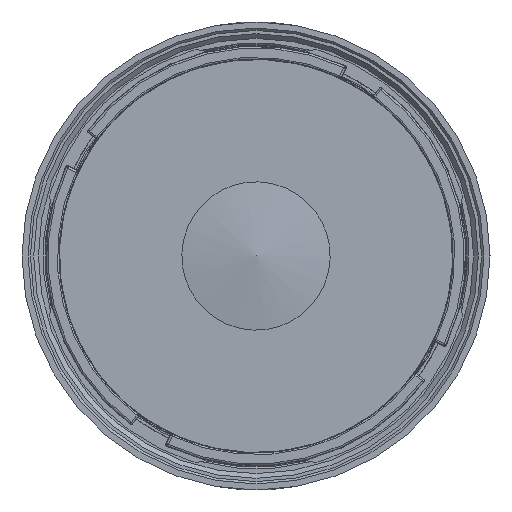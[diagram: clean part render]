
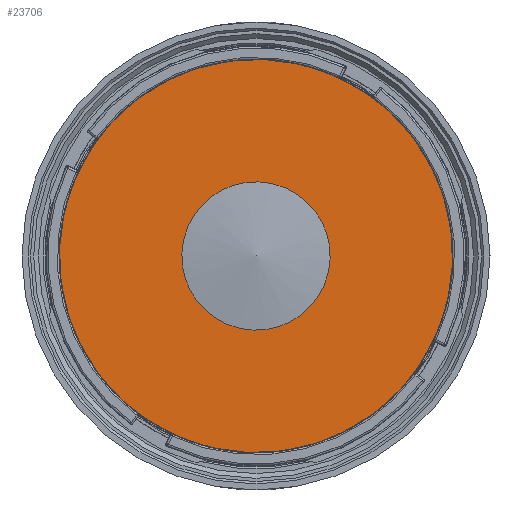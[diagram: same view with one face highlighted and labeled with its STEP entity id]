
A CAD part, front view. The second image highlights one B-rep face of the part: STEP entity #23706.
In plain terms, the highlighted planar face has unit normal (0, -1, 0).
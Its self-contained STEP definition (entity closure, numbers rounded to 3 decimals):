
#123=FACE_BOUND('',#6822,.T.);
#393=PLANE('',#25463);
#5384=FACE_OUTER_BOUND('',#6821,.T.);
#6821=EDGE_LOOP('',(#18443));
#6822=EDGE_LOOP('',(#18444));
#8001=CIRCLE('',#25462,7.927);
#8002=CIRCLE('',#25464,21.013);
#10056=VERTEX_POINT('',#58575);
#10057=VERTEX_POINT('',#58579);
#12993=EDGE_CURVE('',#10056,#10056,#8001,.T.);
#12994=EDGE_CURVE('',#10057,#10057,#8002,.T.);
#18443=ORIENTED_EDGE('',*,*,#12994,.T.);
#18444=ORIENTED_EDGE('',*,*,#12993,.F.);
#23706=ADVANCED_FACE('',(#5384,#123),#393,.T.);
#25462=AXIS2_PLACEMENT_3D('',#58577,#29672,#29673);
#25463=AXIS2_PLACEMENT_3D('',#58578,#29674,#29675);
#25464=AXIS2_PLACEMENT_3D('',#58580,#29676,#29677);
#29672=DIRECTION('center_axis',(0.,-1.,0.));
#29673=DIRECTION('ref_axis',(-0.858,0.,0.514));
#29674=DIRECTION('center_axis',(0.,-1.,0.));
#29675=DIRECTION('ref_axis',(0.858,0.,-0.514));
#29676=DIRECTION('center_axis',(0.,-1.,0.));
#29677=DIRECTION('ref_axis',(-0.858,0.,0.514));
#58575=CARTESIAN_POINT('',(-7.92,-67.044,0.314));
#58577=CARTESIAN_POINT('Origin',(0.,-67.044,0.));
#58578=CARTESIAN_POINT('Origin',(18.026,-67.044,-10.797));
#58579=CARTESIAN_POINT('',(-20.996,-67.044,0.833));
#58580=CARTESIAN_POINT('Origin',(0.,-67.044,0.));
